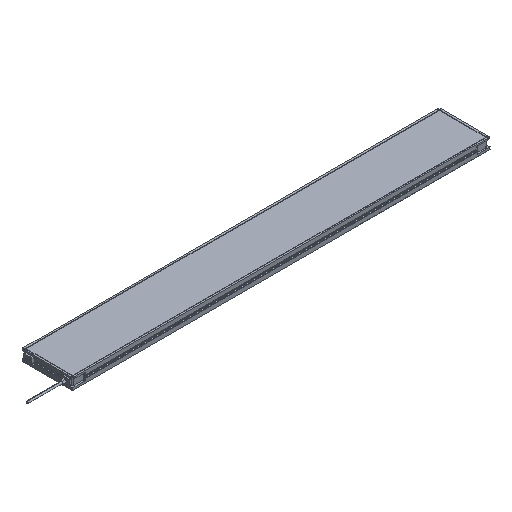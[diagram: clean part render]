
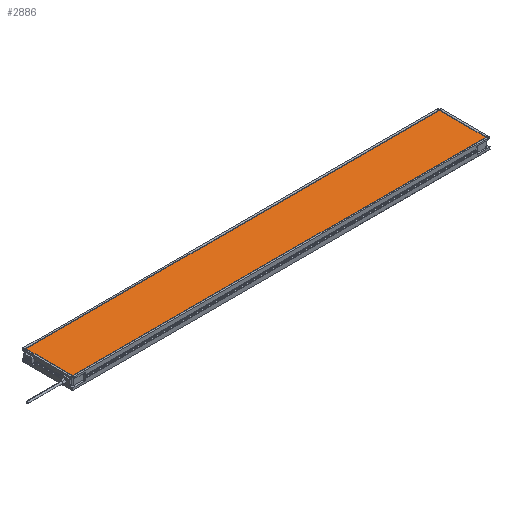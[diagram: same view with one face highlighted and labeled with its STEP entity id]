
A CAD part, isometric view. The second image highlights one B-rep face of the part: STEP entity #2886.
In plain terms, the highlighted planar face has unit normal (0, 0, 1).
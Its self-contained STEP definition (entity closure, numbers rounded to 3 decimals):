
#62 = EDGE_CURVE ( 'NONE', #9654, #5231, #6256, .T. ) ;
#430 = CARTESIAN_POINT ( 'NONE',  ( 4., 0., 41.85 ) ) ;
#740 = DIRECTION ( 'NONE',  ( 0., 0., -1. ) ) ;
#1213 = ORIENTED_EDGE ( 'NONE', *, *, #7525, .T. ) ;
#1911 = LINE ( 'NONE', #7464, #13483 ) ;
#2409 = EDGE_CURVE ( 'NONE', #5231, #10362, #7600, .T. ) ;
#2426 = ORIENTED_EDGE ( 'NONE', *, *, #62, .T. ) ;
#2886 = ADVANCED_FACE ( 'NONE', ( #11768 ), #6381, .F. ) ;
#2960 = VECTOR ( 'NONE', #10526, 1000. ) ;
#3582 = VERTEX_POINT ( 'NONE', #13354 ) ;
#4226 = VECTOR ( 'NONE', #15943, 1000. ) ;
#5112 = CARTESIAN_POINT ( 'NONE',  ( 4., 4., 41.85 ) ) ;
#5231 = VERTEX_POINT ( 'NONE', #5112 ) ;
#6256 = LINE ( 'NONE', #430, #7813 ) ;
#6289 = DIRECTION ( 'NONE',  ( -1., 0., 0. ) ) ;
#6381 = PLANE ( 'NONE',  #7041 ) ;
#6857 = ORIENTED_EDGE ( 'NONE', *, *, #15787, .T. ) ;
#7041 = AXIS2_PLACEMENT_3D ( 'NONE', #7564, #740, #6289 ) ;
#7365 = LINE ( 'NONE', #10375, #4226 ) ;
#7464 = CARTESIAN_POINT ( 'NONE',  ( 1696., 0., 41.85 ) ) ;
#7525 = EDGE_CURVE ( 'NONE', #10362, #3582, #1911, .T. ) ;
#7564 = CARTESIAN_POINT ( 'NONE',  ( 0., 0., 41.85 ) ) ;
#7600 = LINE ( 'NONE', #14623, #2960 ) ;
#7813 = VECTOR ( 'NONE', #10543, 1000. ) ;
#9654 = VERTEX_POINT ( 'NONE', #12665 ) ;
#10362 = VERTEX_POINT ( 'NONE', #17433 ) ;
#10375 = CARTESIAN_POINT ( 'NONE',  ( 0., 196., 41.85 ) ) ;
#10526 = DIRECTION ( 'NONE',  ( 1., 0., 0. ) ) ;
#10543 = DIRECTION ( 'NONE',  ( 0., -1., 0. ) ) ;
#10635 = EDGE_LOOP ( 'NONE', ( #1213, #6857, #2426, #12746 ) ) ;
#11768 = FACE_OUTER_BOUND ( 'NONE', #10635, .T. ) ;
#12665 = CARTESIAN_POINT ( 'NONE',  ( 4., 196., 41.85 ) ) ;
#12746 = ORIENTED_EDGE ( 'NONE', *, *, #2409, .T. ) ;
#13354 = CARTESIAN_POINT ( 'NONE',  ( 1696., 196., 41.85 ) ) ;
#13483 = VECTOR ( 'NONE', #15506, 1000. ) ;
#14623 = CARTESIAN_POINT ( 'NONE',  ( 0., 4., 41.85 ) ) ;
#15506 = DIRECTION ( 'NONE',  ( 0., 1., 0. ) ) ;
#15787 = EDGE_CURVE ( 'NONE', #3582, #9654, #7365, .T. ) ;
#15943 = DIRECTION ( 'NONE',  ( -1., 0., 0. ) ) ;
#17433 = CARTESIAN_POINT ( 'NONE',  ( 1696., 4., 41.85 ) ) ;
